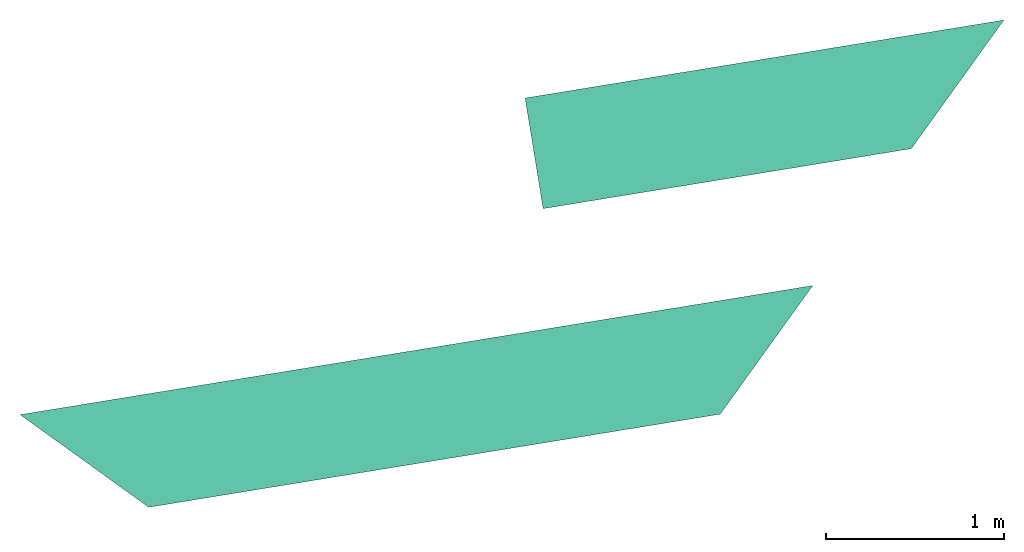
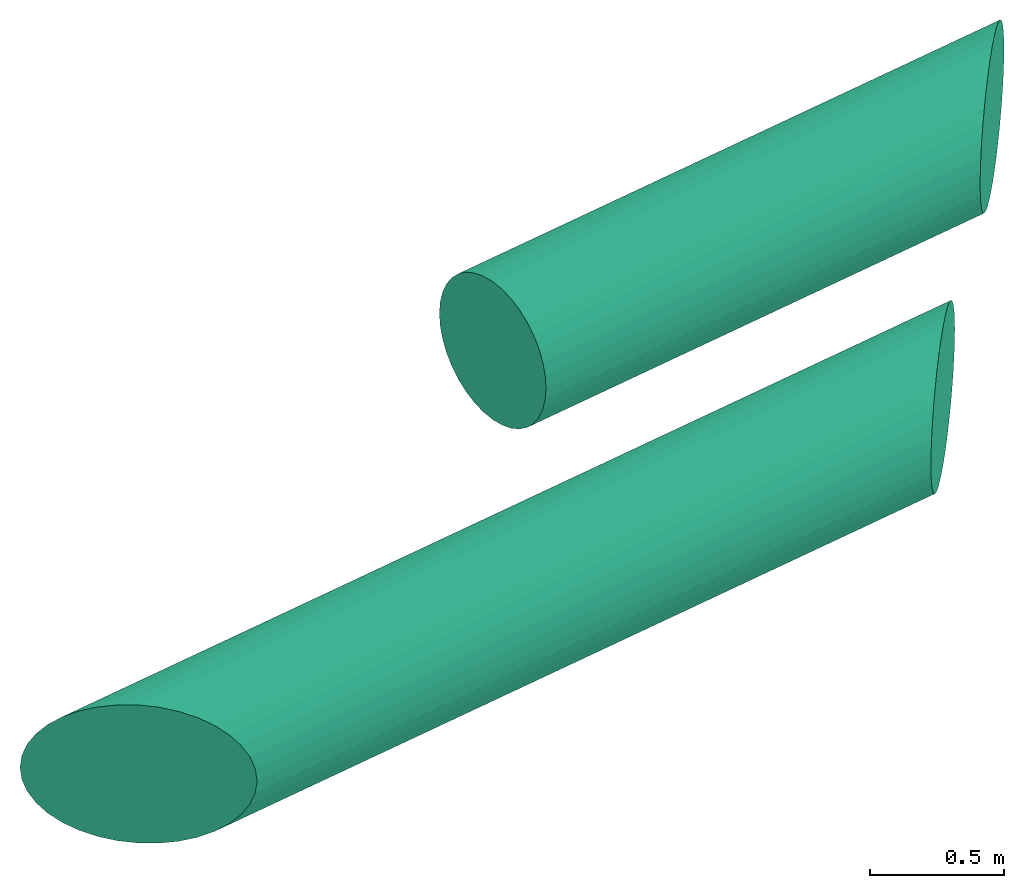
# One storey: 2 flow segments.
"""IFC2X3 building model written with IfcOpenShell, lengths in millimetres."""

from ifc_helpers import new_model, entity, si_unit, converted_unit, derived_unit, direction, frame, origin, origin_with_axes, place, context, subcontext, project, spatial, faceted_brep, material, type_object, element, save


model = new_model("IFC2X3")

# Units and contexts
model_context = context("Model", 3, precision=0.01, world=origin(), true_north=direction((6.12323399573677e-17, 1.0)))
plan_context = context("Plan", 3, precision=1e-05, world=origin_with_axes())
body_context = subcontext(model_context, "Body", "Model", "MODEL_VIEW")
ifc_project = project(units=[converted_unit("PLANEANGLEUNIT", "DEGREE", entity("IfcPositiveLengthMeasure", 0.0174532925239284), si_unit("PLANEANGLEUNIT", "RADIAN"), dimensions=[0, 0, 0, 0, 0, 0, 0]), si_unit("AREAUNIT", "SQUARE_METRE"), si_unit("LENGTHUNIT", "METRE", prefix="MILLI"), si_unit("MASSUNIT", "GRAM", prefix="KILO"), si_unit("POWERUNIT", "WATT"), si_unit("PRESSUREUNIT", "PASCAL", prefix="KILO"), si_unit("FORCEUNIT", "NEWTON", prefix="KILO"), si_unit("ELECTRICVOLTAGEUNIT", "VOLT"), si_unit("ELECTRICCURRENTUNIT", "AMPERE"), si_unit("THERMODYNAMICTEMPERATUREUNIT", "DEGREE_CELSIUS"), si_unit("TIMEUNIT", "SECOND"), si_unit("VOLUMEUNIT", "CUBIC_METRE"), derived_unit("LINEARVELOCITYUNIT", [(si_unit("LENGTHUNIT", "METRE"), 1), (si_unit("TIMEUNIT", "SECOND"), -1)]), derived_unit("VOLUMETRICFLOWRATEUNIT", [(si_unit("VOLUMEUNIT", "CUBIC_METRE"), 1), (si_unit("TIMEUNIT", "SECOND"), -1)]), derived_unit("THERMALTRANSMITTANCEUNIT", [(si_unit("POWERUNIT", "WATT"), 1), (si_unit("THERMODYNAMICTEMPERATUREUNIT", "KELVIN"), -1), (si_unit("AREAUNIT", "SQUARE_METRE"), -1)]), derived_unit("SOUNDPRESSUREUNIT", [(si_unit("PRESSUREUNIT", "PASCAL"), 1)])], contexts=[model_context, plan_context])

# Site, building, storey
site_placement = place(None, frame((5.09380697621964e-08, 5.80416781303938e-08, 0.0), z_axis=(0.0, 0.0, 1.0), x_axis=(-0.160806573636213, 0.986985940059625, 0.0)))
site = spatial("IfcSite", under=ifc_project, at=site_placement, Name="Default", CompositionType="ELEMENT")
building_placement = place(site_placement, frame((0.0, 0.0, 0.0), z_axis=(0.0, 0.0, 1.0), x_axis=(1.0, -2.77555756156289e-17, 0.0)))
building = spatial("IfcBuilding", under=site, at=building_placement, Name="Bygning (endres i Project Information)", CompositionType="ELEMENT")
storey_placement = place(building_placement, frame((0.0, 0.0, 55499.9999999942), z_axis=(0.0, 0.0, 1.0), x_axis=(1.0, -2.77555756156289e-17, 0.0)))
storey = spatial("IfcBuildingStorey", under=building, at=storey_placement, Name="H02-Nivå F-3,5 m", CompositionType="ELEMENT", Elevation=55499.9999999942)

# Flow segments
ifc_material = material(Name="3601.001 Tilluft")
duct_segment_type = type_object("IfcDuctSegmentType", Name="Round Duct:Sirkulær kanal", PredefinedType="NOTDEFINED", material=ifc_material)
flow_segment_1_placement = place(storey_placement, frame((0.0, 0.0, 0.0), z_axis=(0.0, 0.0, 1.0), x_axis=(1.0, -2.77555756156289e-17, 0.0)))
element("IfcFlowSegment", 1, at=flow_segment_1_placement, inside=storey, type_object=duct_segment_type, Name="Round Duct:Sirkulær kanal", ObjectType="Round Duct:Sirkulær kanal", context=body_context, shape_type="Brep", body=[
    faceted_brep([(993524.682971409, -340051.452935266, 3245.30082395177), (993519.8974136, -340056.238493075, 3300.0), (993519.8974136, -343310.688798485, 3300.0), (993524.682971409, -343315.474356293, 3245.30082395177), (993524.682971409, -340051.452935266, 3354.69917604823), (993524.682971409, -343315.474356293, 3354.69917604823), (993538.894238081, -340037.241668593, 3407.73634531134), (993538.894238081, -343329.685622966, 3407.73634531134), (993562.099411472, -340014.036495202, 3457.5000002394), (993562.099411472, -343352.890796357, 3457.5000002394), (993593.59341413, -339982.542492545, 3502.47809735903), (993593.59341413, -343384.384799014, 3502.47809735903), (993632.41931672, -339943.716589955, 3541.30399994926), (993632.41931672, -343423.210701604, 3541.30399994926), (993677.39741384, -339898.738492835, 3572.79800260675), (993677.39741384, -343468.188798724, 3572.79800260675), (993727.161068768, -339848.974837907, 3596.00317599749), (993727.161068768, -343517.952453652, 3596.00317599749), (993780.198238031, -339795.937668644, 3610.21444267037), (993780.198238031, -343570.989622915, 3610.21444267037), (993834.897414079, -339741.238492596, 3615.0000004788), (993834.897414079, -343625.688798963, 3615.0000004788), (993889.596590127, -339686.539316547, 3610.21444267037), (993889.596590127, -343680.387975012, 3610.21444267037), (993942.63375939, -339633.502147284, 3596.00317599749), (993942.63375939, -343733.425144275, 3596.00317599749), (993992.397414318, -339583.738492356, 3572.79800260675), (993992.397414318, -343783.188799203, 3572.79800260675), (994037.375511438, -339538.760395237, 3541.30399994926), (994037.375511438, -343828.166896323, 3541.30399994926), (994076.201414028, -339499.934492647, 3502.47809735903), (994076.201414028, -343866.992798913, 3502.47809735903), (994107.695416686, -339468.440489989, 3457.5000002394), (994107.695416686, -343898.48680157, 3457.5000002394), (994130.900590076, -339445.235316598, 3407.73634531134), (994130.900590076, -343921.691974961, 3407.73634531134), (994145.111856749, -339431.024049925, 3354.69917604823), (994145.111856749, -343935.903241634, 3354.69917604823), (994149.897414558, -339426.238492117, 3300.0), (994149.897414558, -343940.688799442, 3300.0), (994145.111856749, -339431.024049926, 3245.30082395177), (994145.111856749, -343935.903241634, 3245.30082395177), (994130.900590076, -339445.235316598, 3192.26365468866), (994130.900590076, -343921.691974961, 3192.26365468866), (994107.695416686, -339468.440489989, 3142.4999997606), (994107.695416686, -343898.48680157, 3142.4999997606), (994076.201414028, -339499.934492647, 3097.52190264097), (994076.201414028, -343866.992798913, 3097.52190264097), (994037.375511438, -339538.760395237, 3058.69600005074), (994037.375511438, -343828.166896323, 3058.69600005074), (993992.397414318, -339583.738492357, 3027.20199739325), (993992.397414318, -343783.188799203, 3027.20199739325), (993942.63375939, -339633.502147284, 3003.99682400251), (993942.63375939, -343733.425144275, 3003.99682400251), (993889.596590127, -339686.539316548, 2989.78555732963), (993889.596590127, -343680.387975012, 2989.78555732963), (993834.897414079, -339741.238492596, 2984.9999995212), (993834.897414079, -343625.688798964, 2984.9999995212), (993780.198238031, -339795.937668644, 2989.78555732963), (993780.198238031, -343570.989622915, 2989.78555732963), (993727.161068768, -339848.974837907, 3003.99682400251), (993727.161068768, -343517.952453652, 3003.99682400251), (993677.39741384, -339898.738492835, 3027.20199739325), (993677.39741384, -343468.188798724, 3027.20199739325), (993632.41931672, -339943.716589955, 3058.69600005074), (993632.41931672, -343423.210701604, 3058.69600005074), (993593.59341413, -339982.542492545, 3097.52190264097), (993593.59341413, -343384.384799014, 3097.52190264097), (993562.099411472, -340014.036495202, 3142.4999997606), (993562.099411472, -343352.890796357, 3142.4999997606), (993538.894238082, -340037.241668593, 3192.26365468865), (993538.894238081, -343329.685622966, 3192.26365468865)], [[[0, 1, 2, 3]], [[1, 4, 5, 2]], [[4, 6, 7, 5]], [[6, 8, 9, 7]], [[8, 10, 11, 9]], [[10, 12, 13, 11]], [[12, 14, 15, 13]], [[14, 16, 17, 15]], [[16, 18, 19, 17]], [[18, 20, 21, 19]], [[20, 22, 23, 21]], [[22, 24, 25, 23]], [[24, 26, 27, 25]], [[26, 28, 29, 27]], [[28, 30, 31, 29]], [[30, 32, 33, 31]], [[32, 34, 35, 33]], [[34, 36, 37, 35]], [[36, 38, 39, 37]], [[38, 40, 41, 39]], [[40, 42, 43, 41]], [[42, 44, 45, 43]], [[44, 46, 47, 45]], [[46, 48, 49, 47]], [[48, 50, 51, 49]], [[50, 52, 53, 51]], [[52, 54, 55, 53]], [[54, 56, 57, 55]], [[56, 58, 59, 57]], [[58, 60, 61, 59]], [[60, 62, 63, 61]], [[62, 64, 65, 63]], [[64, 66, 67, 65]], [[66, 68, 69, 67]], [[68, 70, 71, 69]], [[70, 0, 3, 71]], [[70, 68, 66, 64, 62, 60, 58, 56, 54, 52, 50, 48, 46, 44, 42, 40, 38, 36, 34, 32, 30, 28, 26, 24, 22, 20, 18, 16, 14, 12, 10, 8, 6, 4, 1, 0]], [[5, 7, 9, 11, 13, 15, 17, 19, 21, 23, 25, 27, 29, 31, 33, 35, 37, 39, 41, 43, 45, 47, 49, 51, 53, 55, 57, 59, 61, 63, 65, 67, 69, 71, 3, 2]]], orient=[[False], [False], [False], [False], [False], [False], [False], [False], [False], [False], [False], [False], [False], [False], [False], [False], [False], [False], [False], [False], [False], [False], [False], [False], [False], [False], [False], [False], [False], [False], [False], [False], [False], [False], [False], [False], [False], [False]]),
])
flow_segment_2_placement = place(storey_placement, frame((0.0, 0.0, 0.0), z_axis=(0.0, 0.0, 1.0), x_axis=(1.0, -2.77555756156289e-17, 0.0)))
element("IfcFlowSegment", 2, at=flow_segment_2_placement, inside=storey, type_object=duct_segment_type, Name="Round Duct:Sirkulær kanal", ObjectType="Round Duct:Sirkulær kanal", context=body_context, shape_type="Brep", body=[
    faceted_brep([(994819.731221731, -344610.522606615, 3300.0), (994824.516779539, -344615.308164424, 3245.30082395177), (994824.516779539, -342513.702451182, 3245.30082395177), (994819.73122173, -342513.702451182, 3300.0), (994824.516779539, -344615.308164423, 3354.69917604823), (994824.516779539, -342513.702451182, 3354.69917604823), (994838.728046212, -344629.519431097, 3407.73634531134), (994838.728046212, -342513.702451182, 3407.73634531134), (994861.933219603, -344652.724604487, 3457.5000002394), (994861.933219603, -342513.702451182, 3457.5000002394), (994893.42722226, -344684.218607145, 3502.47809735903), (994893.42722226, -342513.702451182, 3502.47809735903), (994932.25312485, -344723.044509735, 3541.30399994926), (994932.25312485, -342513.702451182, 3541.30399994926), (994977.23122197, -344768.022606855, 3572.79800260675), (994977.23122197, -342513.702451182, 3572.79800260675), (995026.994876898, -344817.786261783, 3596.00317599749), (995026.994876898, -342513.702451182, 3596.00317599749), (995080.032046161, -344870.823431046, 3610.21444267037), (995080.032046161, -342513.702451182, 3610.21444267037), (995134.731222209, -344925.522607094, 3615.0000004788), (995134.731222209, -342513.702451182, 3615.0000004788), (995189.430398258, -344980.221783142, 3610.21444267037), (995189.430398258, -342513.702451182, 3610.21444267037), (995242.467567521, -345033.258952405, 3596.00317599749), (995242.467567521, -342513.702451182, 3596.00317599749), (995292.231222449, -345083.022607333, 3572.79800260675), (995292.231222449, -342513.702451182, 3572.79800260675), (995337.209319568, -345128.000704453, 3541.30399994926), (995337.209319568, -342513.702451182, 3541.30399994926), (995376.035222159, -345166.826607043, 3502.47809735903), (995376.035222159, -342513.702451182, 3502.47809735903), (995407.529224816, -345198.320609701, 3457.5000002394), (995407.529224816, -342513.702451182, 3457.5000002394), (995430.734398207, -345221.525783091, 3407.73634531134), (995430.734398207, -342513.702451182, 3407.73634531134), (995444.94566488, -345235.737049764, 3354.69917604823), (995444.94566488, -342513.702451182, 3354.69917604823), (995449.731222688, -345240.522607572, 3300.0), (995449.731222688, -342513.702451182, 3300.0), (995444.94566488, -345235.737049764, 3245.30082395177), (995444.94566488, -342513.702451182, 3245.30082395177), (995430.734398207, -345221.525783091, 3192.26365468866), (995430.734398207, -342513.702451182, 3192.26365468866), (995407.529224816, -345198.320609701, 3142.4999997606), (995407.529224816, -342513.702451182, 3142.4999997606), (995376.035222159, -345166.826607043, 3097.52190264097), (995376.035222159, -342513.702451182, 3097.52190264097), (995337.209319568, -345128.000704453, 3058.69600005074), (995337.209319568, -342513.702451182, 3058.69600005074), (995292.231222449, -345083.022607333, 3027.20199739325), (995292.231222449, -342513.702451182, 3027.20199739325), (995242.467567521, -345033.258952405, 3003.99682400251), (995242.467567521, -342513.702451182, 3003.99682400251), (995189.430398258, -344980.221783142, 2989.78555732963), (995189.430398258, -342513.702451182, 2989.78555732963), (995134.731222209, -344925.522607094, 2984.9999995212), (995134.731222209, -342513.702451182, 2984.9999995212), (995080.032046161, -344870.823431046, 2989.78555732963), (995080.032046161, -342513.702451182, 2989.78555732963), (995026.994876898, -344817.786261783, 3003.99682400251), (995026.994876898, -342513.702451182, 3003.99682400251), (994977.23122197, -344768.022606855, 3027.20199739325), (994977.23122197, -342513.702451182, 3027.20199739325), (994932.25312485, -344723.044509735, 3058.69600005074), (994932.25312485, -342513.702451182, 3058.69600005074), (994893.42722226, -344684.218607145, 3097.52190264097), (994893.42722226, -342513.702451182, 3097.52190264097), (994861.933219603, -344652.724604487, 3142.4999997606), (994861.933219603, -342513.702451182, 3142.4999997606), (994838.728046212, -344629.519431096, 3192.26365468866), (994838.728046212, -342513.702451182, 3192.26365468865)], [[[0, 1, 2, 3]], [[4, 0, 3, 5]], [[6, 4, 5, 7]], [[8, 6, 7, 9]], [[10, 8, 9, 11]], [[12, 10, 11, 13]], [[14, 12, 13, 15]], [[16, 14, 15, 17]], [[18, 16, 17, 19]], [[20, 18, 19, 21]], [[22, 20, 21, 23]], [[24, 22, 23, 25]], [[26, 24, 25, 27]], [[28, 26, 27, 29]], [[30, 28, 29, 31]], [[32, 30, 31, 33]], [[34, 32, 33, 35]], [[36, 34, 35, 37]], [[38, 36, 37, 39]], [[40, 38, 39, 41]], [[42, 40, 41, 43]], [[44, 42, 43, 45]], [[46, 44, 45, 47]], [[48, 46, 47, 49]], [[50, 48, 49, 51]], [[52, 50, 51, 53]], [[54, 52, 53, 55]], [[56, 54, 55, 57]], [[58, 56, 57, 59]], [[60, 58, 59, 61]], [[62, 60, 61, 63]], [[64, 62, 63, 65]], [[66, 64, 65, 67]], [[68, 66, 67, 69]], [[70, 68, 69, 71]], [[1, 70, 71, 2]], [[3, 2, 71, 69, 67, 65, 63, 61, 59, 57, 55, 53, 51, 49, 47, 45, 43, 41, 39, 37, 35, 33, 31, 29, 27, 25, 23, 21, 19, 17, 15, 13, 11, 9, 7, 5]], [[4, 6, 8, 10, 12, 14, 16, 18, 20, 22, 24, 26, 28, 30, 32, 34, 36, 38, 40, 42, 44, 46, 48, 50, 52, 54, 56, 58, 60, 62, 64, 66, 68, 70, 1, 0]]], orient=[[False], [False], [False], [False], [False], [False], [False], [False], [False], [False], [False], [False], [False], [False], [False], [False], [False], [False], [False], [False], [False], [False], [False], [False], [False], [False], [False], [False], [False], [False], [False], [False], [False], [False], [False], [False], [False], [False]]),
])

save(model, "model.ifc")
